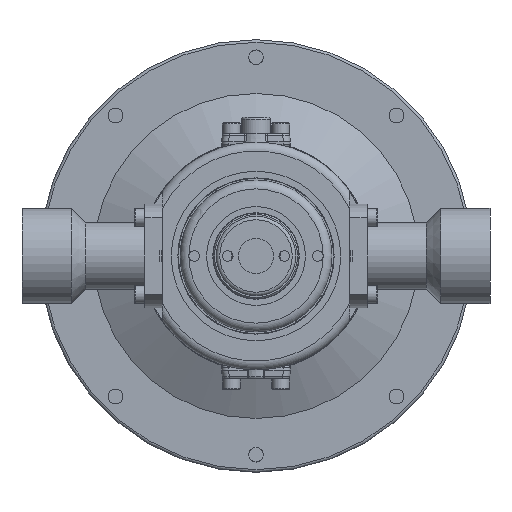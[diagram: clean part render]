
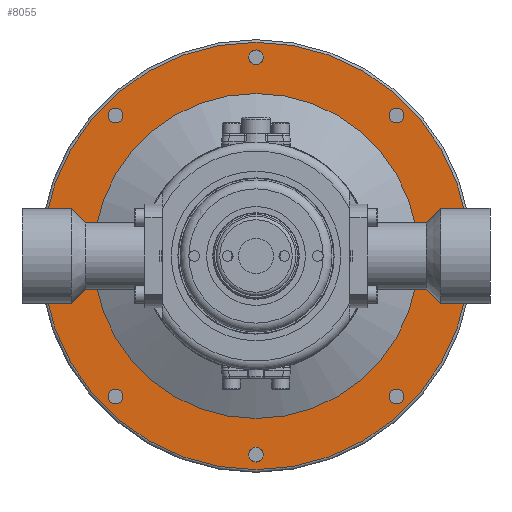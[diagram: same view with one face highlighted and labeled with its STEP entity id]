
A CAD part, front view. The second image highlights one B-rep face of the part: STEP entity #8055.
In plain terms, the highlighted planar face has unit normal (0, -1, 0).
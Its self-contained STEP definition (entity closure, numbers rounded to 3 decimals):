
#1770=FACE_BOUND('',#2707,.T.);
#1771=FACE_BOUND('',#2708,.T.);
#1772=FACE_BOUND('',#2709,.T.);
#1773=FACE_BOUND('',#2710,.T.);
#1774=FACE_BOUND('',#2711,.T.);
#1775=FACE_BOUND('',#2712,.T.);
#1776=FACE_BOUND('',#2713,.T.);
#1777=FACE_BOUND('',#2714,.T.);
#1778=FACE_BOUND('',#2715,.T.);
#2136=FACE_OUTER_BOUND('',#2706,.T.);
#2706=EDGE_LOOP('',(#6905));
#2707=EDGE_LOOP('',(#6906));
#2708=EDGE_LOOP('',(#6907));
#2709=EDGE_LOOP('',(#6908));
#2710=EDGE_LOOP('',(#6909));
#2711=EDGE_LOOP('',(#6910));
#2712=EDGE_LOOP('',(#6911));
#2713=EDGE_LOOP('',(#6912));
#2714=EDGE_LOOP('',(#6913));
#2715=EDGE_LOOP('',(#6914));
#3285=CIRCLE('',#9301,4.188);
#3287=CIRCLE('',#9305,4.188);
#3289=CIRCLE('',#9309,4.188);
#3291=CIRCLE('',#9313,4.188);
#3293=CIRCLE('',#9317,4.188);
#3295=CIRCLE('',#9321,4.188);
#3297=CIRCLE('',#9325,4.188);
#3299=CIRCLE('',#9329,4.188);
#3302=CIRCLE('',#9333,121.);
#3306=CIRCLE('',#9339,92.);
#3990=VERTEX_POINT('',#16007);
#3992=VERTEX_POINT('',#16015);
#3994=VERTEX_POINT('',#16023);
#3996=VERTEX_POINT('',#16031);
#3998=VERTEX_POINT('',#16039);
#4000=VERTEX_POINT('',#16047);
#4002=VERTEX_POINT('',#16055);
#4004=VERTEX_POINT('',#16063);
#4007=VERTEX_POINT('',#16070);
#4010=VERTEX_POINT('',#16081);
#4990=EDGE_CURVE('',#3990,#3990,#3285,.T.);
#4994=EDGE_CURVE('',#3992,#3992,#3287,.T.);
#4998=EDGE_CURVE('',#3994,#3994,#3289,.T.);
#5002=EDGE_CURVE('',#3996,#3996,#3291,.T.);
#5006=EDGE_CURVE('',#3998,#3998,#3293,.T.);
#5010=EDGE_CURVE('',#4000,#4000,#3295,.T.);
#5014=EDGE_CURVE('',#4002,#4002,#3297,.T.);
#5018=EDGE_CURVE('',#4004,#4004,#3299,.T.);
#5021=EDGE_CURVE('',#4007,#4007,#3302,.T.);
#5026=EDGE_CURVE('',#4010,#4010,#3306,.T.);
#6905=ORIENTED_EDGE('',*,*,#5021,.F.);
#6906=ORIENTED_EDGE('',*,*,#5026,.T.);
#6907=ORIENTED_EDGE('',*,*,#4990,.T.);
#6908=ORIENTED_EDGE('',*,*,#5014,.T.);
#6909=ORIENTED_EDGE('',*,*,#5006,.T.);
#6910=ORIENTED_EDGE('',*,*,#4998,.T.);
#6911=ORIENTED_EDGE('',*,*,#4994,.T.);
#6912=ORIENTED_EDGE('',*,*,#5002,.T.);
#6913=ORIENTED_EDGE('',*,*,#5010,.T.);
#6914=ORIENTED_EDGE('',*,*,#5018,.T.);
#7692=PLANE('',#9338);
#8055=ADVANCED_FACE('',(#2136,#1770,#1771,#1772,#1773,#1774,#1775,#1776,
#1777,#1778),#7692,.F.);
#9301=AXIS2_PLACEMENT_3D('',#16009,#11274,#11275);
#9305=AXIS2_PLACEMENT_3D('',#16017,#11284,#11285);
#9309=AXIS2_PLACEMENT_3D('',#16025,#11294,#11295);
#9313=AXIS2_PLACEMENT_3D('',#16033,#11304,#11305);
#9317=AXIS2_PLACEMENT_3D('',#16041,#11314,#11315);
#9321=AXIS2_PLACEMENT_3D('',#16049,#11324,#11325);
#9325=AXIS2_PLACEMENT_3D('',#16057,#11334,#11335);
#9329=AXIS2_PLACEMENT_3D('',#16065,#11344,#11345);
#9333=AXIS2_PLACEMENT_3D('',#16072,#11352,#11353);
#9338=AXIS2_PLACEMENT_3D('',#16080,#11363,#11364);
#9339=AXIS2_PLACEMENT_3D('',#16082,#11365,#11366);
#11274=DIRECTION('center_axis',(0.,1.,0.));
#11275=DIRECTION('ref_axis',(1.,0.,0.));
#11284=DIRECTION('center_axis',(0.,1.,0.));
#11285=DIRECTION('ref_axis',(1.,0.,0.));
#11294=DIRECTION('center_axis',(0.,1.,0.));
#11295=DIRECTION('ref_axis',(1.,0.,0.));
#11304=DIRECTION('center_axis',(0.,1.,0.));
#11305=DIRECTION('ref_axis',(1.,0.,0.));
#11314=DIRECTION('center_axis',(0.,1.,0.));
#11315=DIRECTION('ref_axis',(1.,0.,0.));
#11324=DIRECTION('center_axis',(0.,1.,0.));
#11325=DIRECTION('ref_axis',(1.,0.,0.));
#11334=DIRECTION('center_axis',(0.,1.,0.));
#11335=DIRECTION('ref_axis',(1.,0.,0.));
#11344=DIRECTION('center_axis',(0.,1.,0.));
#11345=DIRECTION('ref_axis',(1.,0.,0.));
#11352=DIRECTION('center_axis',(0.,1.,0.));
#11353=DIRECTION('ref_axis',(1.,0.,0.));
#11363=DIRECTION('center_axis',(0.,1.,0.));
#11364=DIRECTION('ref_axis',(0.,0.,
1.));
#11365=DIRECTION('center_axis',(0.,1.,0.));
#11366=DIRECTION('ref_axis',(1.,0.,0.));
#16007=CARTESIAN_POINT('',(-83.738,13.,79.55));
#16009=CARTESIAN_POINT('Origin',(-79.55,13.,79.55));
#16015=CARTESIAN_POINT('',(-4.188,13.,112.5));
#16017=CARTESIAN_POINT('Origin',(0.,13.,112.5));
#16023=CARTESIAN_POINT('',(75.362,13.,79.55));
#16025=CARTESIAN_POINT('Origin',(79.55,13.,79.55));
#16031=CARTESIAN_POINT('',(108.312,13.,0.));
#16033=CARTESIAN_POINT('Origin',(112.5,13.,0.));
#16039=CARTESIAN_POINT('',(75.362,13.,-79.55));
#16041=CARTESIAN_POINT('Origin',(79.55,13.,-79.55));
#16047=CARTESIAN_POINT('',(-4.188,13.,-112.5));
#16049=CARTESIAN_POINT('Origin',(0.,13.,-112.5));
#16055=CARTESIAN_POINT('',(-83.738,13.,-79.55));
#16057=CARTESIAN_POINT('Origin',(-79.55,13.,-79.55));
#16063=CARTESIAN_POINT('',(-116.688,13.,0.));
#16065=CARTESIAN_POINT('Origin',(-112.5,13.,0.));
#16070=CARTESIAN_POINT('',(0.,13.,-121.));
#16072=CARTESIAN_POINT('Origin',(0.,13.,0.));
#16080=CARTESIAN_POINT('Origin',(-92.,13.,0.));
#16081=CARTESIAN_POINT('',(92.,13.,0.));
#16082=CARTESIAN_POINT('Origin',(0.,13.,0.));
